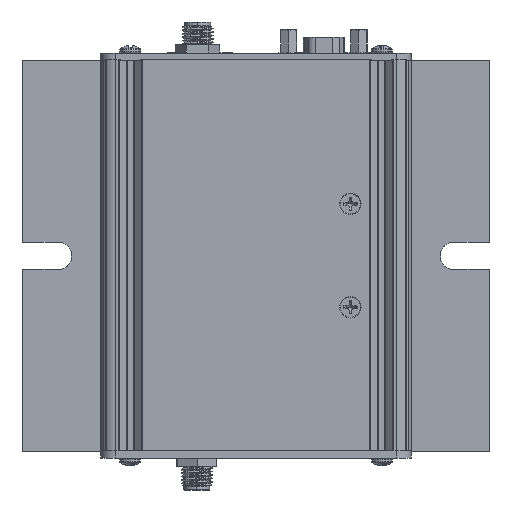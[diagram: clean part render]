
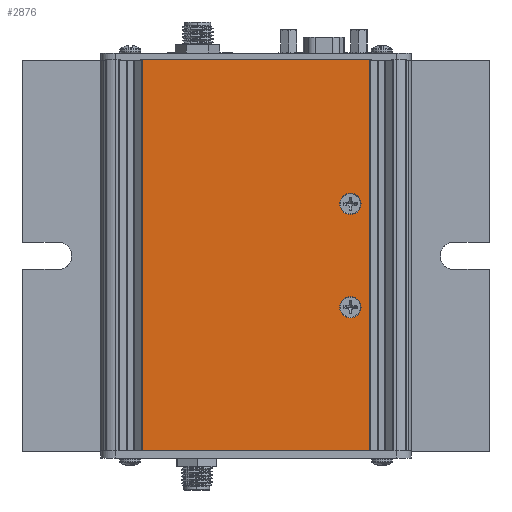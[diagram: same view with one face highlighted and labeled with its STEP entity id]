
A CAD part, front view. The second image highlights one B-rep face of the part: STEP entity #2876.
In plain terms, the highlighted planar face has unit normal (0, -1, 0).
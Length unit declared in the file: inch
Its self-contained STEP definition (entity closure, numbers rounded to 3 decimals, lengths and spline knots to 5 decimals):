
#1481 = ORIENTED_EDGE ( 'NONE', *, *, #5365, .T. ) ;
#1851 = AXIS2_PLACEMENT_3D ( 'NONE', #31334, #21565, #49232 ) ;
#2180 = CARTESIAN_POINT ( 'NONE',  ( 7.58517, 2.63389, 0. ) ) ;
#2546 = AXIS2_PLACEMENT_3D ( 'NONE', #29856, #34706, #30157 ) ;
#2876 = ADVANCED_FACE ( 'NONE', ( #47106, #42841, #46821 ), #9348, .F. ) ;
#3303 = VECTOR ( 'NONE', #26261, 39.37008 ) ;
#3342 = CARTESIAN_POINT ( 'NONE',  ( 9.25988, 2.63389, -1.24689 ) ) ;
#3421 = VERTEX_POINT ( 'NONE', #3621 ) ;
#3621 = CARTESIAN_POINT ( 'NONE',  ( 9.25988, 2.63389, -1.90756 ) ) ;
#4280 = AXIS2_PLACEMENT_3D ( 'NONE', #19111, #14253, #5985 ) ;
#5365 = EDGE_CURVE ( 'NONE', #52788, #9003, #32463, .T. ) ;
#5567 = CARTESIAN_POINT ( 'NONE',  ( 9.41408, 2.63389, 0. ) ) ;
#5870 = LINE ( 'NONE', #20545, #50179 ) ;
#5985 = DIRECTION ( 'NONE',  ( 0., 0., 1. ) ) ;
#7079 = DIRECTION ( 'NONE',  ( 0., 0., -1. ) ) ;
#8201 = CARTESIAN_POINT ( 'NONE',  ( 9.25988, 2.63389, -1.16089 ) ) ;
#8921 = VERTEX_POINT ( 'NONE', #17836 ) ;
#9003 = VERTEX_POINT ( 'NONE', #5567 ) ;
#9348 = PLANE ( 'NONE',  #4280 ) ;
#9652 = CARTESIAN_POINT ( 'NONE',  ( 9.41408, 2.63389, -3.1496 ) ) ;
#10459 = DIRECTION ( 'NONE',  ( 0., 0., 1. ) ) ;
#12522 = CARTESIAN_POINT ( 'NONE',  ( 8.52443, 2.63389, 0. ) ) ;
#12839 = DIRECTION ( 'NONE',  ( 0., -1., 0. ) ) ;
#14253 = DIRECTION ( 'NONE',  ( 0., 1., 0. ) ) ;
#16491 = EDGE_CURVE ( 'NONE', #52788, #8921, #40625, .T. ) ;
#16573 = CIRCLE ( 'NONE', #50550, 0.086 ) ;
#17513 = EDGE_LOOP ( 'NONE', ( #38014, #34527 ) ) ;
#17836 = CARTESIAN_POINT ( 'NONE',  ( 7.58517, 2.63389, -3.1496 ) ) ;
#18216 = EDGE_CURVE ( 'NONE', #25655, #3421, #34042, .T. ) ;
#19111 = CARTESIAN_POINT ( 'NONE',  ( 8.52443, 2.63389, -3.1496 ) ) ;
#19422 = VERTEX_POINT ( 'NONE', #38724 ) ;
#20210 = VERTEX_POINT ( 'NONE', #3342 ) ;
#20545 = CARTESIAN_POINT ( 'NONE',  ( 7.58517, 2.63389, -3.1496 ) ) ;
#21565 = DIRECTION ( 'NONE',  ( 0., -1., 0. ) ) ;
#24047 = CIRCLE ( 'NONE', #2546, 0.086 ) ;
#24745 = VECTOR ( 'NONE', #42406, 39.37008 ) ;
#24789 = EDGE_CURVE ( 'NONE', #9003, #48271, #39931, .T. ) ;
#25655 = VERTEX_POINT ( 'NONE', #44560 ) ;
#26261 = DIRECTION ( 'NONE',  ( -1., 0., 0. ) ) ;
#26669 = DIRECTION ( 'NONE',  ( -1., 0., 0. ) ) ;
#27814 = ORIENTED_EDGE ( 'NONE', *, *, #28820, .F. ) ;
#28039 = AXIS2_PLACEMENT_3D ( 'NONE', #34284, #34576, #7079 ) ;
#28820 = EDGE_CURVE ( 'NONE', #8921, #48271, #5870, .T. ) ;
#29321 = EDGE_CURVE ( 'NONE', #3421, #25655, #24047, .T. ) ;
#29856 = CARTESIAN_POINT ( 'NONE',  ( 9.25988, 2.63389, -1.99356 ) ) ;
#30157 = DIRECTION ( 'NONE',  ( 0., 0., -1. ) ) ;
#31334 = CARTESIAN_POINT ( 'NONE',  ( 9.25988, 2.63389, -1.99356 ) ) ;
#32354 = DIRECTION ( 'NONE',  ( 0., 0., -1. ) ) ;
#32463 = LINE ( 'NONE', #50942, #24745 ) ;
#32751 = EDGE_LOOP ( 'NONE', ( #34147, #47752 ) ) ;
#34042 = CIRCLE ( 'NONE', #1851, 0.086 ) ;
#34147 = ORIENTED_EDGE ( 'NONE', *, *, #49610, .F. ) ;
#34284 = CARTESIAN_POINT ( 'NONE',  ( 9.25988, 2.63389, -1.16089 ) ) ;
#34527 = ORIENTED_EDGE ( 'NONE', *, *, #29321, .F. ) ;
#34576 = DIRECTION ( 'NONE',  ( 0., -1., 0. ) ) ;
#34706 = DIRECTION ( 'NONE',  ( 0., -1., 0. ) ) ;
#37713 = CIRCLE ( 'NONE', #28039, 0.086 ) ;
#38014 = ORIENTED_EDGE ( 'NONE', *, *, #18216, .F. ) ;
#38724 = CARTESIAN_POINT ( 'NONE',  ( 9.25988, 2.63389, -1.07489 ) ) ;
#39931 = LINE ( 'NONE', #12522, #3303 ) ;
#40625 = LINE ( 'NONE', #40932, #59505 ) ;
#40932 = CARTESIAN_POINT ( 'NONE',  ( 8.52443, 2.63389, -3.1496 ) ) ;
#42276 = ORIENTED_EDGE ( 'NONE', *, *, #16491, .F. ) ;
#42406 = DIRECTION ( 'NONE',  ( 0., 0., 1. ) ) ;
#42841 = FACE_BOUND ( 'NONE', #32751, .T. ) ;
#44560 = CARTESIAN_POINT ( 'NONE',  ( 9.25988, 2.63389, -2.07956 ) ) ;
#45805 = EDGE_LOOP ( 'NONE', ( #51349, #27814, #42276, #1481 ) ) ;
#46821 = FACE_OUTER_BOUND ( 'NONE', #45805, .T. ) ;
#47106 = FACE_BOUND ( 'NONE', #17513, .T. ) ;
#47752 = ORIENTED_EDGE ( 'NONE', *, *, #58814, .F. ) ;
#48271 = VERTEX_POINT ( 'NONE', #2180 ) ;
#49232 = DIRECTION ( 'NONE',  ( 0., 0., -1. ) ) ;
#49610 = EDGE_CURVE ( 'NONE', #20210, #19422, #37713, .T. ) ;
#50179 = VECTOR ( 'NONE', #10459, 39.37008 ) ;
#50550 = AXIS2_PLACEMENT_3D ( 'NONE', #8201, #12839, #32354 ) ;
#50942 = CARTESIAN_POINT ( 'NONE',  ( 9.41408, 2.63389, -3.1496 ) ) ;
#51349 = ORIENTED_EDGE ( 'NONE', *, *, #24789, .T. ) ;
#52788 = VERTEX_POINT ( 'NONE', #9652 ) ;
#58814 = EDGE_CURVE ( 'NONE', #19422, #20210, #16573, .T. ) ;
#59505 = VECTOR ( 'NONE', #26669, 39.37008 ) ;
